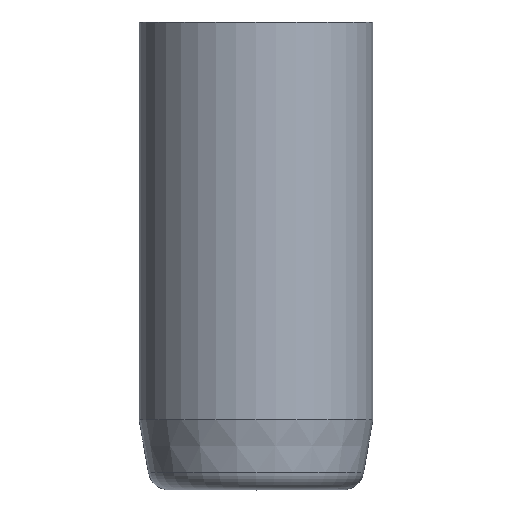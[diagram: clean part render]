
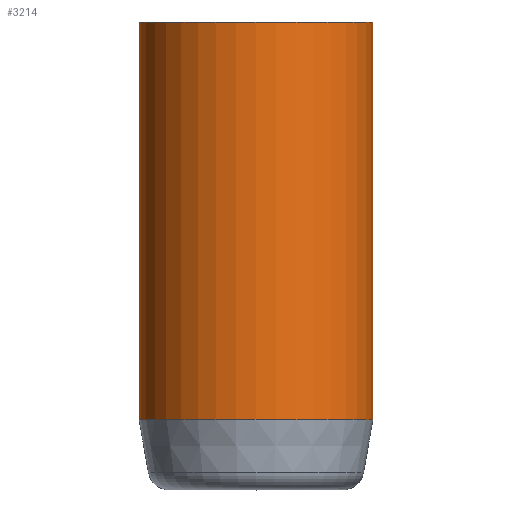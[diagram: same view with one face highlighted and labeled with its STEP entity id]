
A CAD part, top view. The second image highlights one B-rep face of the part: STEP entity #3214.
In plain terms, the highlighted cylindrical face has radius 5 mm (diameter 10 mm), a partial arc.
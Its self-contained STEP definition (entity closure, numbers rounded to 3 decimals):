
#301 = CARTESIAN_POINT ( 'NONE',  ( 0., -10.1, 0. ) ) ;
#418 = AXIS2_PLACEMENT_3D ( 'NONE', #10578, #11572, #6877 ) ;
#426 = CYLINDRICAL_SURFACE ( 'NONE', #5218, 5. ) ;
#816 = EDGE_LOOP ( 'NONE', ( #8636, #6903, #1118, #5974 ) ) ;
#842 = CIRCLE ( 'NONE', #4823, 5. ) ;
#881 = DIRECTION ( 'NONE',  ( 0., -1., 0. ) ) ;
#1118 = ORIENTED_EDGE ( 'NONE', *, *, #2767, .T. ) ;
#1261 = CARTESIAN_POINT ( 'NONE',  ( 0., -7., -5. ) ) ;
#1868 = LINE ( 'NONE', #4791, #10479 ) ;
#2081 = DIRECTION ( 'NONE',  ( 0., 1., 0. ) ) ;
#2238 = VECTOR ( 'NONE', #2081, 1000. ) ;
#2299 = DIRECTION ( 'NONE',  ( 0., 1., 0. ) ) ;
#2767 = EDGE_CURVE ( 'NONE', #9191, #8977, #9194, .T. ) ;
#2817 = CARTESIAN_POINT ( 'NONE',  ( 0., -7., 0. ) ) ;
#3214 = ADVANCED_FACE ( 'NONE', ( #11853 ), #426, .T. ) ;
#4791 = CARTESIAN_POINT ( 'NONE',  ( 0., -10.1, -5. ) ) ;
#4823 = AXIS2_PLACEMENT_3D ( 'NONE', #2817, #881, #6622 ) ;
#5218 = AXIS2_PLACEMENT_3D ( 'NONE', #301, #2299, #9116 ) ;
#5631 = EDGE_CURVE ( 'NONE', #8977, #10672, #9808, .T. ) ;
#5884 = EDGE_CURVE ( 'NONE', #9191, #7053, #842, .T. ) ;
#5974 = ORIENTED_EDGE ( 'NONE', *, *, #5631, .T. ) ;
#6267 = CARTESIAN_POINT ( 'NONE',  ( 0., 10., 5. ) ) ;
#6578 = EDGE_CURVE ( 'NONE', #7053, #10672, #1868, .T. ) ;
#6622 = DIRECTION ( 'NONE',  ( 0., 0., -1. ) ) ;
#6793 = DIRECTION ( 'NONE',  ( 0., 1., 0. ) ) ;
#6877 = DIRECTION ( 'NONE',  ( -1., 0., 0. ) ) ;
#6903 = ORIENTED_EDGE ( 'NONE', *, *, #5884, .F. ) ;
#7053 = VERTEX_POINT ( 'NONE', #1261 ) ;
#7836 = CARTESIAN_POINT ( 'NONE',  ( 0., -10.1, 5. ) ) ;
#8636 = ORIENTED_EDGE ( 'NONE', *, *, #6578, .F. ) ;
#8977 = VERTEX_POINT ( 'NONE', #6267 ) ;
#9116 = DIRECTION ( 'NONE',  ( 0., 0., 1. ) ) ;
#9138 = CARTESIAN_POINT ( 'NONE',  ( 0., 10., -5. ) ) ;
#9191 = VERTEX_POINT ( 'NONE', #11981 ) ;
#9194 = LINE ( 'NONE', #7836, #2238 ) ;
#9808 = CIRCLE ( 'NONE', #418, 5. ) ;
#10479 = VECTOR ( 'NONE', #6793, 1000. ) ;
#10578 = CARTESIAN_POINT ( 'NONE',  ( 0., 10., 0. ) ) ;
#10672 = VERTEX_POINT ( 'NONE', #9138 ) ;
#11572 = DIRECTION ( 'NONE',  ( 0., -1., 0. ) ) ;
#11853 = FACE_OUTER_BOUND ( 'NONE', #816, .T. ) ;
#11981 = CARTESIAN_POINT ( 'NONE',  ( 0., -7., 5. ) ) ;
